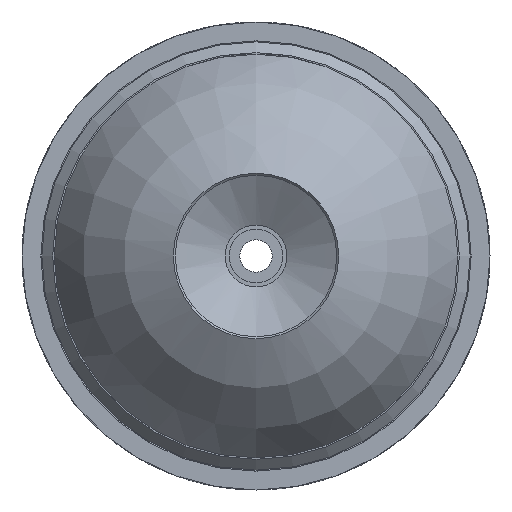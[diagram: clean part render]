
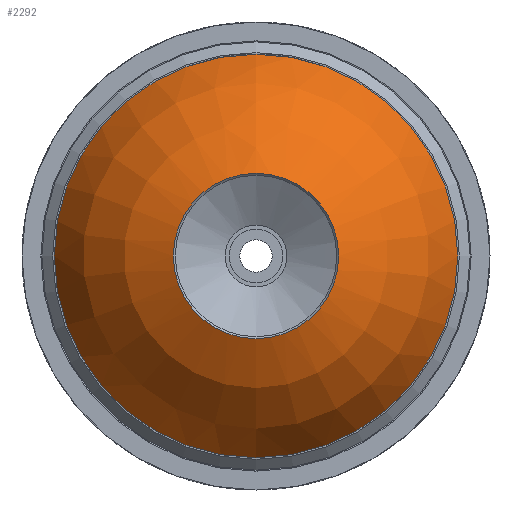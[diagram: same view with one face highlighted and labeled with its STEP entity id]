
A CAD part, front view. The second image highlights one B-rep face of the part: STEP entity #2292.
In plain terms, the highlighted toroidal (fillet/blend) face has major radius 0.741 mm and minor radius 40 mm.
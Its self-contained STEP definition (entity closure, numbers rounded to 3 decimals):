
#369 = DIRECTION ( 'NONE',  ( 0., 1., 0. ) ) ;
#966 = CARTESIAN_POINT ( 'NONE',  ( 0., -198.628, 0. ) ) ;
#1380 = CARTESIAN_POINT ( 'NONE',  ( 0., -235.86, 15.36 ) ) ;
#2138 = DIRECTION ( 'NONE',  ( 0., 1., 0. ) ) ;
#2292 = ADVANCED_FACE ( 'NONE', ( #16001, #16273 ), #10286, .T. ) ;
#3245 = VERTEX_POINT ( 'NONE', #1380 ) ;
#3699 = ORIENTED_EDGE ( 'NONE', *, *, #12999, .F. ) ;
#5692 = DIRECTION ( 'NONE',  ( 0., 0., 1. ) ) ;
#6179 = DIRECTION ( 'NONE',  ( 0., 0., 1. ) ) ;
#7786 = VERTEX_POINT ( 'NONE', #17971 ) ;
#7967 = CARTESIAN_POINT ( 'NONE',  ( 0., -235.86, 0. ) ) ;
#8571 = DIRECTION ( 'NONE',  ( 0., 1., 0. ) ) ;
#9293 = AXIS2_PLACEMENT_3D ( 'NONE', #15691, #2138, #10426 ) ;
#10286 = TOROIDAL_SURFACE ( 'NONE', #12492, 0.741, 40. ) ;
#10426 = DIRECTION ( 'NONE',  ( 0., 0., 1. ) ) ;
#12492 = AXIS2_PLACEMENT_3D ( 'NONE', #966, #8571, #5692 ) ;
#12520 = CIRCLE ( 'NONE', #13772, 15.36 ) ;
#12526 = EDGE_LOOP ( 'NONE', ( #15273 ) ) ;
#12999 = EDGE_CURVE ( 'NONE', #7786, #7786, #17817, .T. ) ;
#13772 = AXIS2_PLACEMENT_3D ( 'NONE', #7967, #369, #6179 ) ;
#14638 = EDGE_CURVE ( 'NONE', #3245, #3245, #12520, .T. ) ;
#15273 = ORIENTED_EDGE ( 'NONE', *, *, #14638, .T. ) ;
#15691 = CARTESIAN_POINT ( 'NONE',  ( 0., -214.4, 0. ) ) ;
#16001 = FACE_OUTER_BOUND ( 'NONE', #12526, .T. ) ;
#16273 = FACE_OUTER_BOUND ( 'NONE', #16951, .T. ) ;
#16951 = EDGE_LOOP ( 'NONE', ( #3699 ) ) ;
#17817 = CIRCLE ( 'NONE', #9293, 37.5 ) ;
#17971 = CARTESIAN_POINT ( 'NONE',  ( 0., -214.4, 37.5 ) ) ;
